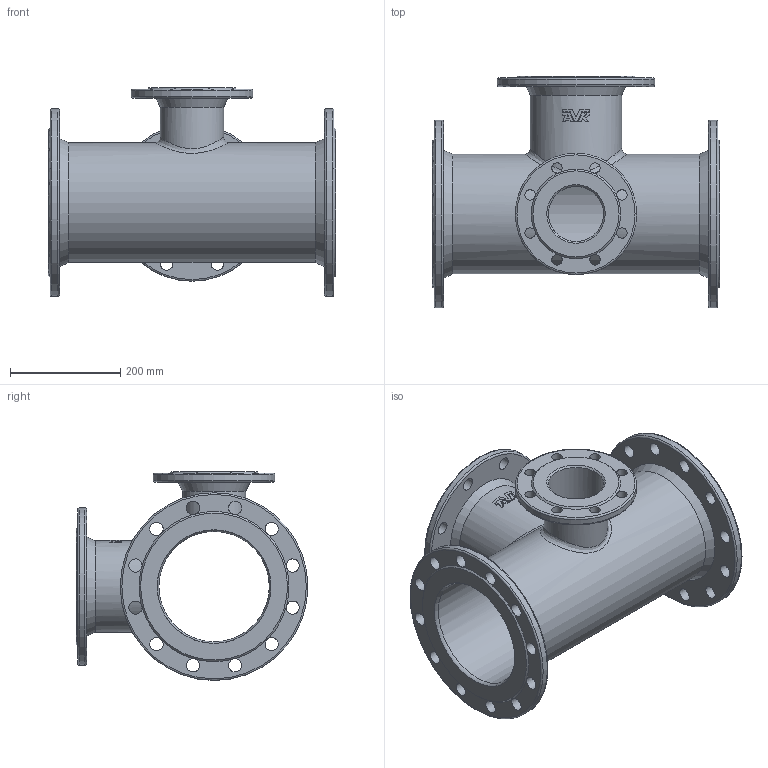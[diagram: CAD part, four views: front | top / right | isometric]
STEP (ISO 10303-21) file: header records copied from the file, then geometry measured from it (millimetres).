
FILE_DESCRIPTION (( 'STEP AP203' ), '1' );
FILE_NAME ('O_712_1110_DN150_DN200_1_AA1.step', '2017-10-13T07:25:57', ( 'Windows User' ), ( 'AVK' ), 'SwSTEP 2.0', 'SolidWorks 2012', '' );
FILE_SCHEMA (( 'CONFIG_CONTROL_DESIGN' ));
Length unit declared in the file: millimetre
Products named in the file (1): O_712_1110_DN150_DN200_1_AA1
Bounding box: 520 x 420 x 378.4 mm (x, y, z)
Volume: 6484880.2 mm3; surface area: 1235438.5 mm2
Topology: 1 solids, 1 shells, 142 faces, 462 edges, 293 vertices
Faces by surface type: cylinder 54, plane 44, bspline 21, cone 12, torus 11
Full cylindrical faces by diameter (mm): 19 x8, 23 x8, 24 x24, 100 x1, 114.4 x1, 150 x1, 165.6 x1, 200 x1, 216.8 x1, 220 x1, 285 x1, 340 x2
Entity records: 8439 total; most frequent: CARTESIAN_POINT 4956, DIRECTION 690, ORIENTED_EDGE 644, AXIS2_PLACEMENT_3D 337, EDGE_CURVE 322, EDGE_LOOP 279, VERTEX_POINT 233, CIRCLE 215
